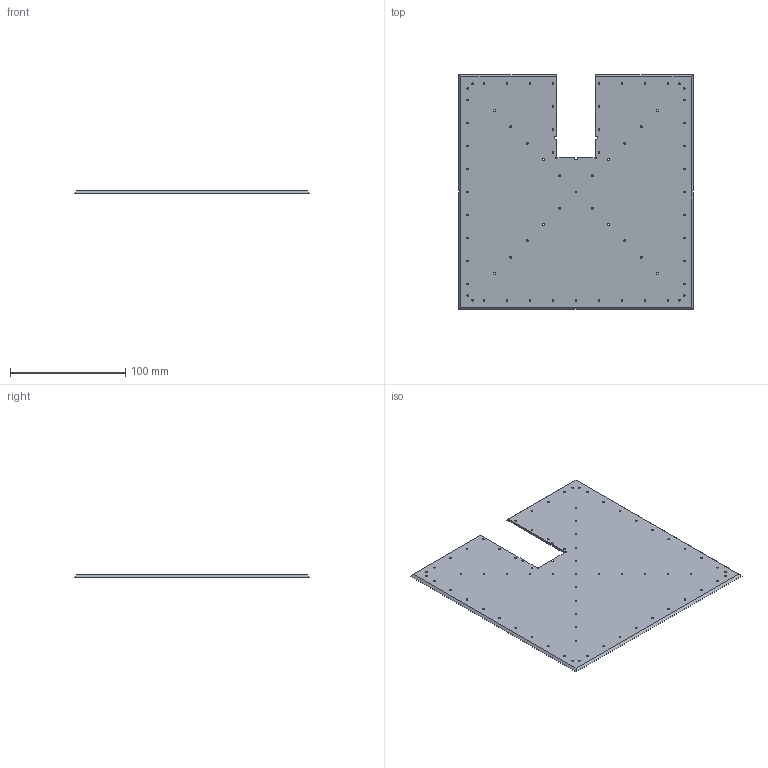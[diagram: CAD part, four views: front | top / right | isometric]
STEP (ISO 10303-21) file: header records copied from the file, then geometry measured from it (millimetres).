
FILE_DESCRIPTION (( 'STEP AP214' ), '1' );
FILE_NAME ('SC35.STEP', '2016-02-27T08:03:01', ( '' ), ( '' ), 'SwSTEP 2.0', 'SolidWorks 2012', '' );
FILE_SCHEMA (( 'AUTOMOTIVE_DESIGN' ));
Length unit declared in the file: millimetre
Products named in the file (1): SC35
Bounding box: 204 x 204 x 2 mm (x, y, z)
Volume: 76436.9 mm3; surface area: 79710.5 mm2
Topology: 1 solids, 1 shells, 166 faces, 492 edges, 328 vertices
Faces by surface type: cylinder 147, plane 19
Entity records: 6044 total; most frequent: DIRECTION 1120, CARTESIAN_POINT 987, ORIENTED_EDGE 984, EDGE_CURVE 492, AXIS2_PLACEMENT_3D 461, VERTEX_POINT 328, EDGE_LOOP 306, CIRCLE 294
